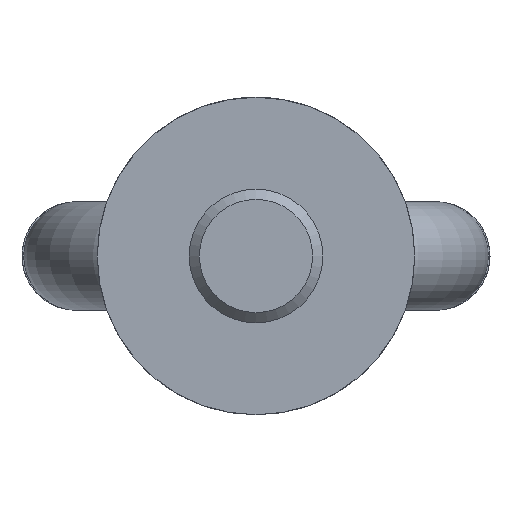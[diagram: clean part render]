
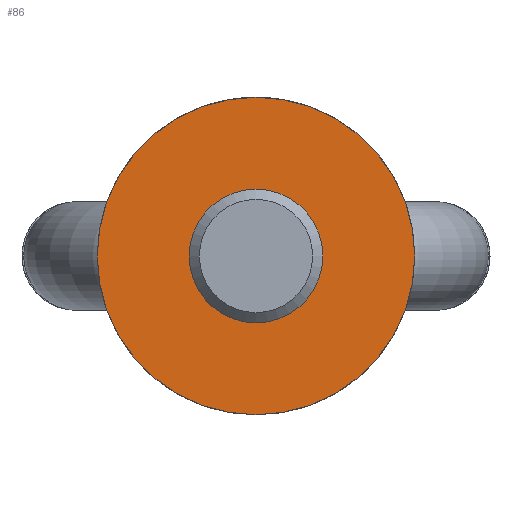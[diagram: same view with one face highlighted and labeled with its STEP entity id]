
A CAD part, front view. The second image highlights one B-rep face of the part: STEP entity #86.
In plain terms, the highlighted planar face has unit normal (0, -1, 0).
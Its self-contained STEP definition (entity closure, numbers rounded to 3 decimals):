
#86 = ADVANCED_FACE( '', ( #132, #133 ), #134, .F. );
#132 = FACE_BOUND( '', #200, .T. );
#133 = FACE_OUTER_BOUND( '', #201, .T. );
#134 = PLANE( '', #202 );
#200 = EDGE_LOOP( '', ( #307 ) );
#201 = EDGE_LOOP( '', ( #308 ) );
#202 = AXIS2_PLACEMENT_3D( '', #309, #310, #311 );
#307 = ORIENTED_EDGE( '', *, *, #413, .T. );
#308 = ORIENTED_EDGE( '', *, *, #427, .T. );
#309 = CARTESIAN_POINT( '', ( 19., 0., 0. ) );
#310 = DIRECTION( '', ( 0., 1., 0. ) );
#311 = DIRECTION( '', ( 0., 0., 1. ) );
#413 = EDGE_CURVE( '', #471, #471, #472, .T. );
#427 = EDGE_CURVE( '', #496, #496, #497, .T. );
#471 = VERTEX_POINT( '', #859 );
#472 = CIRCLE( '', #860, 8. );
#496 = VERTEX_POINT( '', #898 );
#497 = CIRCLE( '', #899, 19. );
#859 = CARTESIAN_POINT( '', ( 0., 0., 8. ) );
#860 = AXIS2_PLACEMENT_3D( '', #993, #994, #995 );
#898 = CARTESIAN_POINT( '', ( 0., 0., -19. ) );
#899 = AXIS2_PLACEMENT_3D( '', #1016, #1017, #1018 );
#993 = CARTESIAN_POINT( '', ( 0., 0., 0. ) );
#994 = DIRECTION( '', ( 0., 1., 0. ) );
#995 = DIRECTION( '', ( 0., 0., 1. ) );
#1016 = CARTESIAN_POINT( '', ( 0., 0., 0. ) );
#1017 = DIRECTION( '', ( 0., -1., 0. ) );
#1018 = DIRECTION( '', ( 0., 0., -1. ) );
